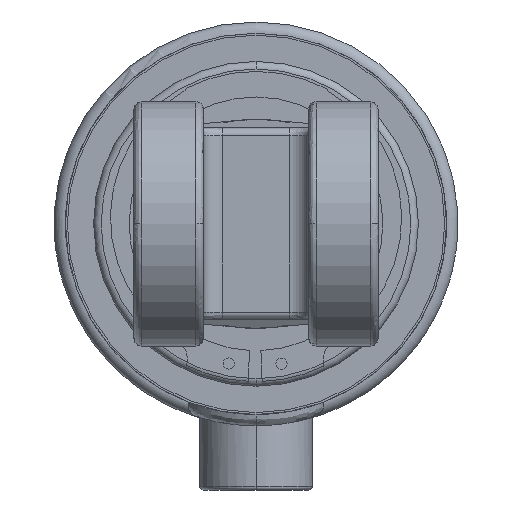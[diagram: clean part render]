
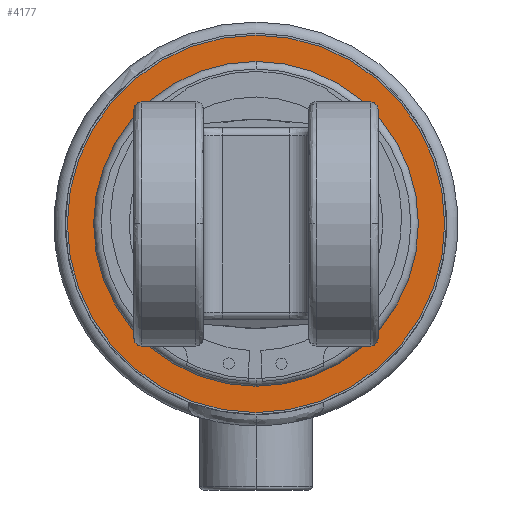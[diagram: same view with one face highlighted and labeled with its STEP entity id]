
A CAD part, left-side view. The second image highlights one B-rep face of the part: STEP entity #4177.
In plain terms, the highlighted planar face has unit normal (-1, 0, 0).
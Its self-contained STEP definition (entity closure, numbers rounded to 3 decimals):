
#356 = EDGE_LOOP ( 'NONE', ( #6057, #3430 ) ) ;
#680 = CARTESIAN_POINT ( 'NONE',  ( -418.005, 0., 0. ) ) ;
#1046 = VERTEX_POINT ( 'NONE', #10975 ) ;
#1559 = DIRECTION ( 'NONE',  ( 0., 0., 1. ) ) ;
#1703 = CARTESIAN_POINT ( 'NONE',  ( -418.005, 0., 0. ) ) ;
#1708 = EDGE_CURVE ( 'NONE', #1046, #2718, #10160, .T. ) ;
#2037 = AXIS2_PLACEMENT_3D ( 'NONE', #7751, #2517, #8640 ) ;
#2405 = CIRCLE ( 'NONE', #5865, 43.2 ) ;
#2517 = DIRECTION ( 'NONE',  ( -1., 0., 0. ) ) ;
#2591 = DIRECTION ( 'NONE',  ( 0., 0., 1. ) ) ;
#2718 = VERTEX_POINT ( 'NONE', #4553 ) ;
#3360 = EDGE_CURVE ( 'NONE', #7518, #6402, #9722, .T. ) ;
#3394 = EDGE_LOOP ( 'NONE', ( #8507, #5369 ) ) ;
#3399 = EDGE_CURVE ( 'NONE', #6402, #7518, #7096, .T. ) ;
#3430 = ORIENTED_EDGE ( 'NONE', *, *, #3360, .T. ) ;
#3813 = AXIS2_PLACEMENT_3D ( 'NONE', #1703, #7832, #2591 ) ;
#4177 = ADVANCED_FACE ( 'NONE', ( #8461, #6143 ), #4281, .T. ) ;
#4281 = PLANE ( 'NONE',  #11034 ) ;
#4553 = CARTESIAN_POINT ( 'NONE',  ( -418.005, 0., -43.2 ) ) ;
#4913 = DIRECTION ( 'NONE',  ( -1., 0., 0. ) ) ;
#5153 = DIRECTION ( 'NONE',  ( 0., 0., 1. ) ) ;
#5369 = ORIENTED_EDGE ( 'NONE', *, *, #7514, .F. ) ;
#5482 = AXIS2_PLACEMENT_3D ( 'NONE', #10187, #4913, #11062 ) ;
#5865 = AXIS2_PLACEMENT_3D ( 'NONE', #680, #6803, #1559 ) ;
#6057 = ORIENTED_EDGE ( 'NONE', *, *, #3399, .T. ) ;
#6143 = FACE_BOUND ( 'NONE', #3394, .T. ) ;
#6402 = VERTEX_POINT ( 'NONE', #8695 ) ;
#6803 = DIRECTION ( 'NONE',  ( -1., 0., 0. ) ) ;
#7096 = CIRCLE ( 'NONE', #3813, 50.2 ) ;
#7514 = EDGE_CURVE ( 'NONE', #2718, #1046, #2405, .T. ) ;
#7518 = VERTEX_POINT ( 'NONE', #11200 ) ;
#7751 = CARTESIAN_POINT ( 'NONE',  ( -418.005, 0., 0. ) ) ;
#7832 = DIRECTION ( 'NONE',  ( -1., 0., 0. ) ) ;
#8461 = FACE_OUTER_BOUND ( 'NONE', #356, .T. ) ;
#8507 = ORIENTED_EDGE ( 'NONE', *, *, #1708, .F. ) ;
#8640 = DIRECTION ( 'NONE',  ( 0., 0., 1. ) ) ;
#8695 = CARTESIAN_POINT ( 'NONE',  ( -418.005, 0., 50.2 ) ) ;
#9532 = CARTESIAN_POINT ( 'NONE',  ( -418.005, 0., -50.2 ) ) ;
#9722 = CIRCLE ( 'NONE', #2037, 50.2 ) ;
#10160 = CIRCLE ( 'NONE', #5482, 43.2 ) ;
#10187 = CARTESIAN_POINT ( 'NONE',  ( -418.005, 0., 0. ) ) ;
#10418 = DIRECTION ( 'NONE',  ( -1., 0., 0. ) ) ;
#10975 = CARTESIAN_POINT ( 'NONE',  ( -418.005, 0., 43.2 ) ) ;
#11034 = AXIS2_PLACEMENT_3D ( 'NONE', #9532, #10418, #5153 ) ;
#11062 = DIRECTION ( 'NONE',  ( 0., 0., 1. ) ) ;
#11200 = CARTESIAN_POINT ( 'NONE',  ( -418.005, 0., -50.2 ) ) ;
